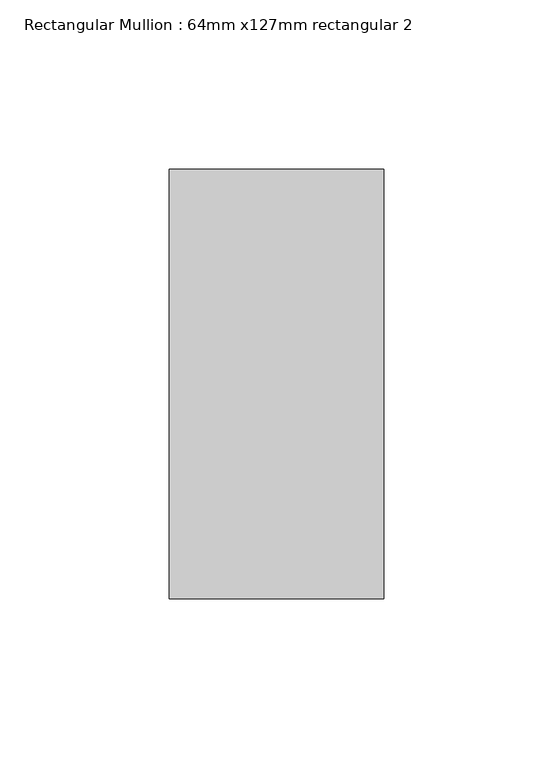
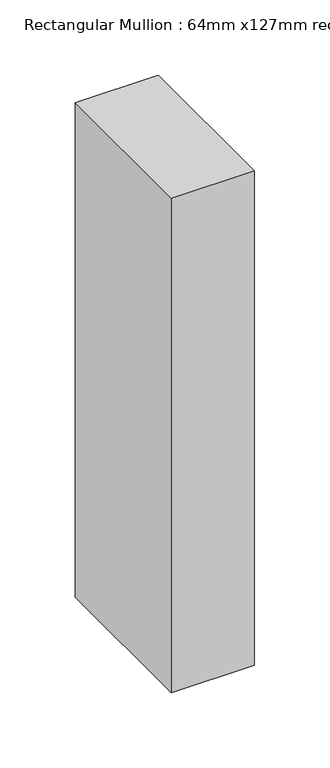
"""IFC4 building model written with IfcOpenShell, lengths in millimetres: member geometry, Rectangular Mullion : 64mm x127mm rectangular 2."""

from ifc_helpers import new_model, si_unit, frame, origin, place, context, project, spatial, polyline, outline, extrude, source, transform, mapped, element, save


def rectangular_mullion_64mm_x127mm_rectangular_2_d2340509(model_context):
    return source(origin(), model_context, "Body", "SweptSolid", [
        extrude(outline(polyline([(31.75, 63.5), (31.75, -63.5), (-31.75, -63.5), (-31.75, 63.5), (31.75, 63.5)])), frame((0.0, 0.0, -400.05), z_axis=(0.0, 0.0, 1.0), x_axis=(1.0, 0.0, 0.0)), (0.0, 0.0, 1.0), 400.05),
    ])


if __name__ == "__main__":
    model = new_model("IFC4")
    model_context = context("Model", 3, world=origin())
    ifc_project = project(units=[si_unit("LENGTHUNIT", "METRE", prefix="MILLI")], contexts=[model_context])
    site = spatial("IfcSite", under=ifc_project)
    building = spatial("IfcBuilding", under=site)
    placement = place(None, origin())
    rectangular_mullion_64mm_x127mm_rectangular_2_shape = rectangular_mullion_64mm_x127mm_rectangular_2_d2340509(model_context)
    element("IfcMember", 1, ObjectType="Rectangular Mullion : 64mm x127mm rectangular 2", at=placement, inside=building, context=model_context, shape_type="MappedRepresentation", body=[
        mapped(rectangular_mullion_64mm_x127mm_rectangular_2_shape, transform((0.0, 0.0, 0.0), x_axis=(1.0, 0.0, 0.0), y_axis=(0.0, 1.0, 0.0), z_axis=(0.0, 0.0, 1.0))),
    ])
    save(model, "model.ifc")
